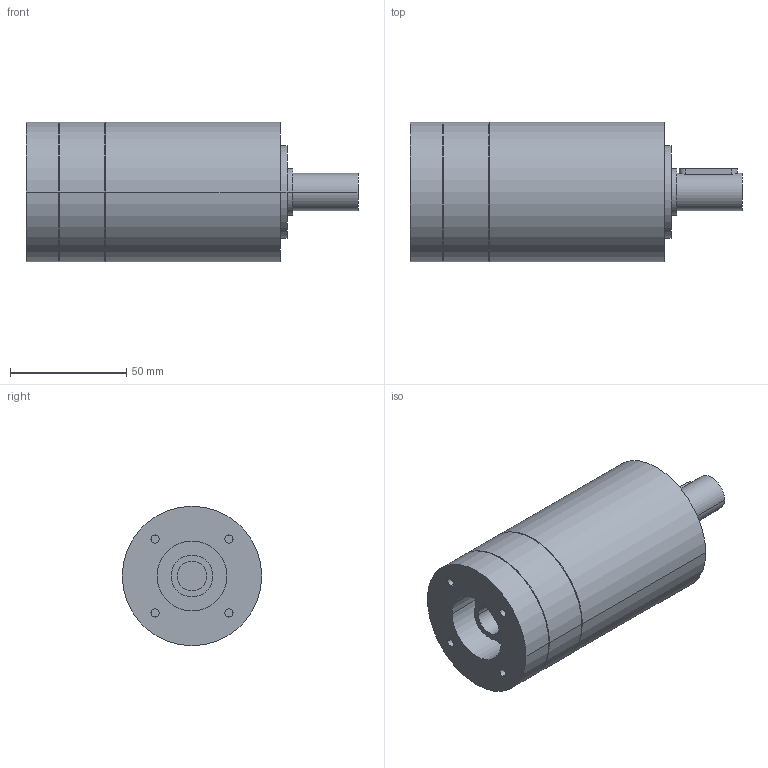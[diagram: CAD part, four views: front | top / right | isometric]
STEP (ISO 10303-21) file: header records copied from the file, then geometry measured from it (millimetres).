
FILE_DESCRIPTION(('CoCreate Modeling STEP Export'),'2;1');
FILE_NAME('GPR75_ig-9-12-16-20-24-30-36_16_B14_12.7_P16.stp','2014-08-25T16:02:24',(''),(''),'CoCreate Modeling STEP processor for AP214 (Solid Model)','CoCreate Modeling 16.00C 25-Feb-2009 (C) Parametric Technology GmbH','');
FILE_SCHEMA(('AUTOMOTIVE_DESIGN { 1 0 10303 214 1 1 1 1 }'));
Length unit declared in the file: millimetre
Products named in the file (2): GPR75_ig-9-12-16-20-24-30-36_16_B14_12.7_P16
Assembly tree (1 placements, depth 2):
  GPR75_ig-9-12-16-20-24-30-36_16_B14_12.7_P16
    GPR75_ig-9-12-16-20-24-30-36_16_B14_12.7_P16
Bounding box: 142.9 x 60 x 60 mm (x, y, z)
Volume: 306120.3 mm3; surface area: 33005.9 mm2
Topology: 1 solids, 1 shells, 77 faces, 194 edges, 138 vertices
Faces by surface type: cylinder 46, plane 25, cone 6
Entity records: 1956 total; most frequent: ORIENTED_EDGE 384, CARTESIAN_POINT 358, DIRECTION 254, EDGE_CURVE 192, VERTEX_POINT 138, AXIS2_PLACEMENT_3D 98, EDGE_LOOP 98, FACE_OUTER_BOUND 77
